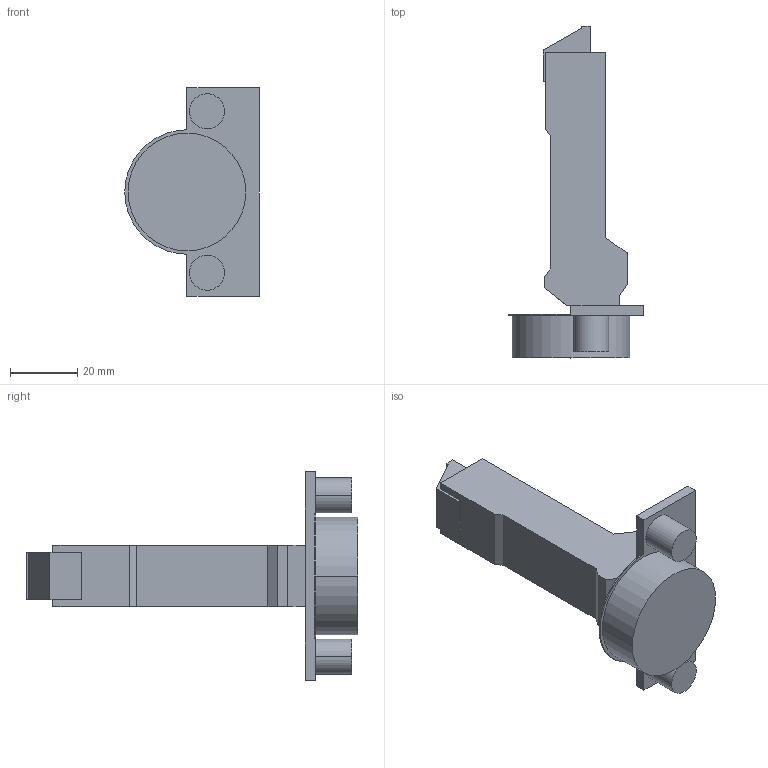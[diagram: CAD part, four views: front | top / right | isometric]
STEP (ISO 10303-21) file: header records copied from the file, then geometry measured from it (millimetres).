
FILE_DESCRIPTION (( 'STEP AP214' ), '1' );
FILE_NAME ('Scharnier TS Click-on 120° S_BB, K95_Dübel.step', '2010-12-06T09:59:06', ( 'grass' ), ( '' ), 'SwSTEP 2.0', 'SolidWorks 2010', '' );
FILE_SCHEMA (( 'AUTOMOTIVE_DESIGN' ));
Length unit declared in the file: millimetre
Products named in the file (1): Scharnier TS Click-on 120° S_BB, K95_Dübel
Bounding box: 40 x 98.7 x 62 mm (x, y, z)
Volume: 43946.1 mm3; surface area: 12534 mm2
Topology: 1 solids, 1 shells, 57 faces, 139 edges, 92 vertices
Faces by surface type: plane 40, cylinder 17
Entity records: 1705 total; most frequent: CARTESIAN_POINT 289, DIRECTION 289, ORIENTED_EDGE 278, EDGE_CURVE 139, LINE 105, VECTOR 105, AXIS2_PLACEMENT_3D 92, VERTEX_POINT 92
